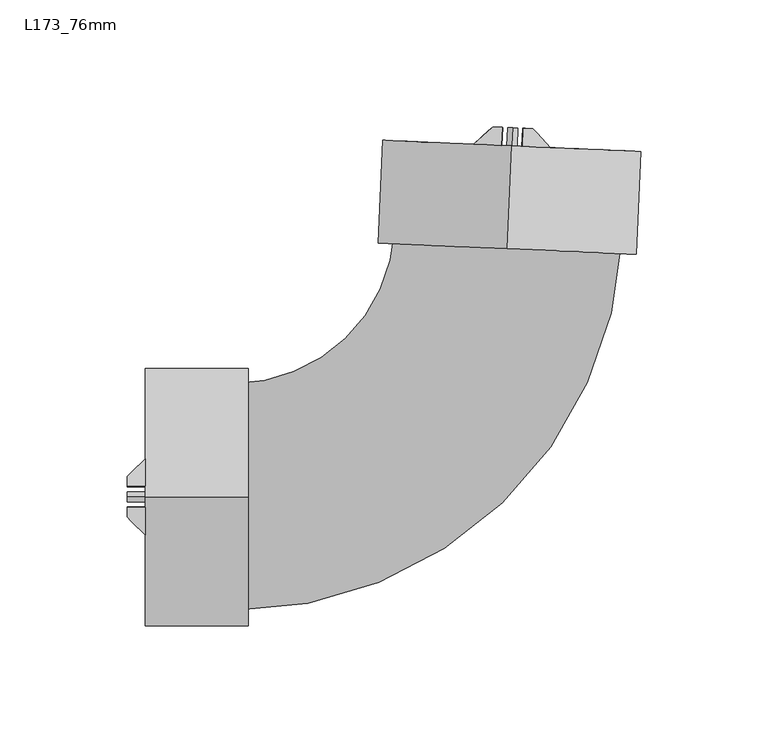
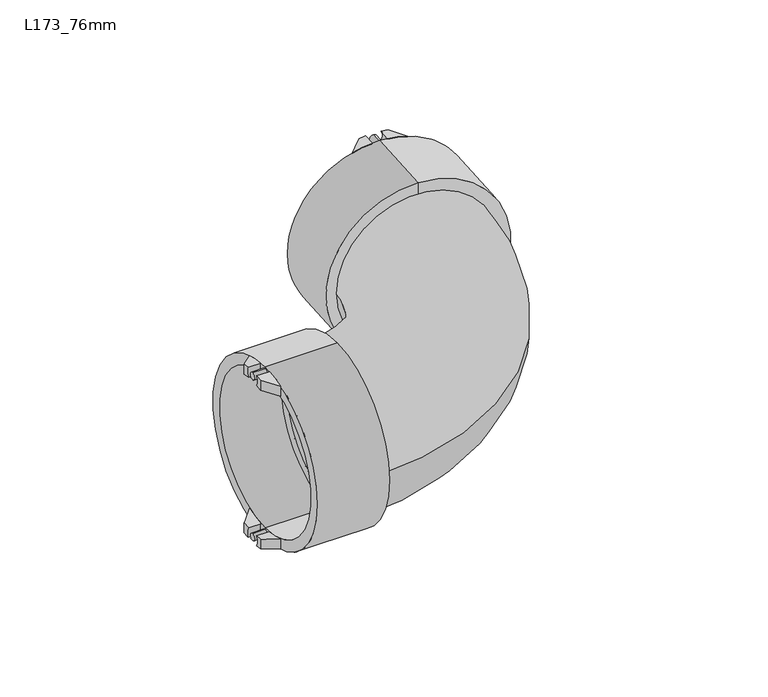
"""IFC4 building model written with IfcOpenShell, lengths in millimetres: pipe fitting geometry, Durapipe_PipeFitting_VulcatheneEnfusion_DoubleSocketLongSweepBend_L17 : L173_76mm."""

from ifc_helpers import new_model, si_unit, point, frame, frame_2d, origin, place, context, project, spatial, polyline, circle_curve, ellipse_curve, trimmed, segment, composite_curve, outline, extrude, source, transform, mapped, element, save
from ifc_brep_helpers import plane_surface, cylinder_surface, revolved_surface, advanced_brep


def l173_76mm_c5a6e707(model_context):
    return source(origin(), model_context, "Body", "SolidModel", [
        advanced_brep(
        [(2.4020182, 145.4254172, -44.6762827), (2.1545434, 145.4362222, -50.4762827), (-1.5905426, 145.5997362, -50.0237833), (-1.5905426, 145.5997362, -44.1415779), (-8.9535206, 138.8144467, -48.3779133), (1.8448458, 138.3429798, -50.4762827), (2.0923205, 138.3321748, -44.6762827), (-8.9535206, 138.8144467, -42.2672746)],
        [
            (0, 1, circle_curve(frame((6.3419003, 145.2533982, -47.75), z_axis=(-0.04361938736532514, -0.9990482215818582, 0.0), x_axis=(0.0, 0.0, 1.0)), 5.0)),
            (1, 2, circle_curve(frame((6.3419003, 145.2533982, 0.0), z_axis=(0.04361938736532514, 0.9990482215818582, 0.0), x_axis=(0.0, 0.0, 1.0)), 50.65)),
            (2, 3),
            (3, 0, circle_curve(frame((6.3419003, 145.2533982, 0.0), z_axis=(-0.04361938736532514, -0.9990482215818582, 0.0), x_axis=(0.0, 0.0, 1.0)), 44.85)),
            (4, 5, circle_curve(frame((6.0322027, 138.1601559, 0.0), z_axis=(-0.04361938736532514, -0.9990482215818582, 0.0), x_axis=(0.0, 0.0, 1.0)), 50.65)),
            (5, 6, circle_curve(frame((6.0322027, 138.1601559, -47.75), z_axis=(0.04361938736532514, 0.9990482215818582, 0.0), x_axis=(0.0, 0.0, 1.0)), 5.0)),
            (6, 7, circle_curve(frame((6.0322027, 138.1601559, 0.0), z_axis=(0.04361938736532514, 0.9990482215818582, 0.0), x_axis=(0.0, 0.0, 1.0)), 44.85)),
            (7, 4),
            (6, 0),
            (3, 7, ellipse_curve(frame((6.6902005, 153.2307841, 0.0), z_axis=(-0.6776702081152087, 0.7353659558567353, 0.0), x_axis=(-0.7353659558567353, -0.6776702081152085, 0.0)), 63.6074133, 44.85)),
            (4, 2, ellipse_curve(frame((6.6902005, 153.2307841, 0.0), z_axis=(0.6776702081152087, -0.7353659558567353, 0.0), x_axis=(0.7353659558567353, 0.6776702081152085, 0.0)), 71.8331212, 50.65)),
            (1, 5),
        ],
        [
            plane_surface(frame((-8.643823, 145.907689, -48.3779133), z_axis=(0.04361938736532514, 0.9990482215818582, 0.0), x_axis=(0.0, 0.0, 1.0))),
            plane_surface(frame((-8.9535206, 138.8144467, -48.3779133), z_axis=(-0.04361938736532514, -0.9990482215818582, 0.0), x_axis=(0.0, 0.0, -1.0))),
            revolved_surface(polyline([(4.722786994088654, 108.16960556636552, 44.85), (8.657614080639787, 198.29196263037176, 44.85)]), (6.0322027, 138.1601559, 0.0), (-0.04361938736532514, -0.9990482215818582, 0.0)),
            cylinder_surface(frame((6.0322027, 138.1601559, 0.0), z_axis=(0.04361938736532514, 0.9990482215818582, 0.0), x_axis=(0.0, 0.0, 1.0)), 50.65),
            revolved_surface(polyline([(6.341900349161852, 145.25339824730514, -42.75), (6.03220269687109, 138.16015582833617, -42.75)]), (6.0322027, 138.1601559, -47.75), (0.04361938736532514, 0.9990482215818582, 0.0)),
            plane_surface(frame((-8.9535206, 138.8144467, 50.65), z_axis=(-0.6776702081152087, 0.7353659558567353, 0.0), x_axis=(0.0, 0.0, -1.0))),
        ],
        [
            (0, [[1, 2, 3, 4]]),
            (1, [[5, 6, 7, 8]]),
            (2, [[-7, 9, -4, 10]]),
            (3, [[-5, 11, -2, 12]]),
            (4, [[-1, -9, -6, -12]]),
            (5, [[-3, -11, -8, -10]]),
        ],
    ),
        advanced_brep(
        [(10.5292572, 145.0705743, -50.4762827), (10.2817825, 145.0813793, -44.6762827), (14.2743432, 144.9070603, -44.1415779), (14.2743432, 144.9070603, -50.0237833), (10.2195596, 137.9773319, -50.4762827), (21.017926, 137.505865, -48.3779133), (21.017926, 137.505865, -42.2672746), (9.9720849, 137.9881369, -44.6762827)],
        [
            (0, 1, circle_curve(frame((6.3419003, 145.2533982, -47.75), z_axis=(-0.04361938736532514, -0.9990482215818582, 0.0), x_axis=(0.0, 0.0, 1.0)), 5.0)),
            (1, 2, circle_curve(frame((6.3419003, 145.2533982, 0.0), z_axis=(-0.04361938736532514, -0.9990482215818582, 0.0), x_axis=(0.0, 0.0, 1.0)), 44.85)),
            (2, 3),
            (3, 0, circle_curve(frame((6.3419003, 145.2533982, 0.0), z_axis=(0.04361938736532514, 0.9990482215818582, 0.0), x_axis=(0.0, 0.0, 1.0)), 50.65)),
            (4, 5, circle_curve(frame((6.0322027, 138.1601559, 0.0), z_axis=(-0.04361938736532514, -0.9990482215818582, 0.0), x_axis=(0.0, 0.0, 1.0)), 50.65)),
            (5, 6),
            (6, 7, circle_curve(frame((6.0322027, 138.1601559, 0.0), z_axis=(0.04361938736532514, 0.9990482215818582, 0.0), x_axis=(0.0, 0.0, 1.0)), 44.85)),
            (7, 4, circle_curve(frame((6.0322027, 138.1601559, -47.75), z_axis=(0.04361938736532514, 0.9990482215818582, 0.0), x_axis=(0.0, 0.0, 1.0)), 5.0)),
            (6, 2, ellipse_curve(frame((6.6902005, 153.2307841, 0.0), z_axis=(0.7391828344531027, 0.6735048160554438, 0.0), x_axis=(0.6735048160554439, -0.7391828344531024, 0.0)), 63.6074133, 44.85)),
            (1, 7),
            (4, 0),
            (3, 5, ellipse_curve(frame((6.6902005, 153.2307841, 0.0), z_axis=(-0.7391828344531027, -0.6735048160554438, 0.0), x_axis=(-0.6735048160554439, 0.7391828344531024, 0.0)), 71.8331212, 50.65)),
        ],
        [
            plane_surface(frame((-8.643823, 145.907689, -48.3779133), z_axis=(0.04361938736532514, 0.9990482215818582, 0.0), x_axis=(0.0, 0.0, 1.0))),
            plane_surface(frame((-8.9535206, 138.8144467, -48.3779133), z_axis=(-0.04361938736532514, -0.9990482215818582, 0.0), x_axis=(0.0, 0.0, -1.0))),
            revolved_surface(polyline([(4.722786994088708, 108.16960556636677, 44.85), (8.657614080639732, 198.2919626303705, 44.85)]), (6.0322027, 138.1601559, 0.0), (-0.04361938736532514, -0.9990482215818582, 0.0)),
            cylinder_surface(frame((6.0322027, 138.1601559, 0.0), z_axis=(0.04361938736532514, 0.9990482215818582, 0.0), x_axis=(0.0, 0.0, 1.0)), 50.65),
            revolved_surface(polyline([(6.341900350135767, 145.25339826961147, -42.75), (6.032202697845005, 138.1601558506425, -42.75)]), (6.0322027, 138.1601559, -47.75), (0.04361938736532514, 0.9990482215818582, 0.0)),
            plane_surface(frame((14.2743432, 144.9070603, 50.65), z_axis=(0.7391828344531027, 0.6735048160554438, 0.0), x_axis=(0.0, 0.0, -1.0))),
        ],
        [
            (0, [[1, 2, 3, 4]]),
            (1, [[5, 6, 7, 8]]),
            (2, [[-7, 9, -2, 10]]),
            (3, [[-5, 11, -4, 12]]),
            (4, [[-1, -11, -8, -10]]),
            (5, [[-3, -9, -6, -12]]),
        ],
    ),
        advanced_brep(
        [(2.1545434, 145.4362222, 50.4762827), (2.4020182, 145.4254172, 44.6762827), (-1.5905426, 145.5997362, 44.1415779), (-1.5905426, 145.5997362, 50.0237833), (1.8448458, 138.3429798, 50.4762827), (-8.9535206, 138.8144467, 48.3779133), (-8.9535206, 138.8144467, 42.2672746), (2.0923205, 138.3321748, 44.6762827)],
        [
            (0, 1, circle_curve(frame((6.3419003, 145.2533982, 47.75), z_axis=(-0.04361938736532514, -0.9990482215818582, 0.0), x_axis=(0.0, 0.0, 1.0)), 5.0)),
            (1, 2, circle_curve(frame((6.3419003, 145.2533982, 0.0), z_axis=(-0.04361938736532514, -0.9990482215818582, 0.0), x_axis=(0.0, 0.0, 1.0)), 44.85)),
            (2, 3),
            (3, 0, circle_curve(frame((6.3419003, 145.2533982, 0.0), z_axis=(0.04361938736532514, 0.9990482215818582, 0.0), x_axis=(0.0, 0.0, 1.0)), 50.65)),
            (4, 5, circle_curve(frame((6.0322027, 138.1601559, 0.0), z_axis=(-0.04361938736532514, -0.9990482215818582, 0.0), x_axis=(0.0, 0.0, 1.0)), 50.65)),
            (5, 6),
            (6, 7, circle_curve(frame((6.0322027, 138.1601559, 0.0), z_axis=(0.04361938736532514, 0.9990482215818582, 0.0), x_axis=(0.0, 0.0, 1.0)), 44.85)),
            (7, 4, circle_curve(frame((6.0322027, 138.1601559, 47.75), z_axis=(0.04361938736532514, 0.9990482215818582, 0.0), x_axis=(0.0, 0.0, 1.0)), 5.0)),
            (6, 2, ellipse_curve(frame((6.6902005, 153.2307841, 0.0), z_axis=(-0.6776702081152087, 0.7353659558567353, 0.0), x_axis=(-0.7353659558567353, -0.6776702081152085, 0.0)), 63.6074133, 44.85)),
            (1, 7),
            (4, 0),
            (3, 5, ellipse_curve(frame((6.6902005, 153.2307841, 0.0), z_axis=(0.6776702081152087, -0.7353659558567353, 0.0), x_axis=(0.7353659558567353, 0.6776702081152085, 0.0)), 71.8331212, 50.65)),
        ],
        [
            plane_surface(frame((-8.643823, 145.907689, -48.3779133), z_axis=(0.04361938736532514, 0.9990482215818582, 0.0), x_axis=(0.0, 0.0, 1.0))),
            plane_surface(frame((-8.9535206, 138.8144467, -48.3779133), z_axis=(-0.04361938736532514, -0.9990482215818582, 0.0), x_axis=(0.0, 0.0, -1.0))),
            revolved_surface(polyline([(4.722786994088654, 108.16960556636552, 44.85), (8.657614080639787, 198.29196263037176, 44.85)]), (6.0322027, 138.1601559, 0.0), (-0.04361938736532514, -0.9990482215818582, 0.0)),
            cylinder_surface(frame((6.0322027, 138.1601559, 0.0), z_axis=(0.04361938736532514, 0.9990482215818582, 0.0), x_axis=(0.0, 0.0, 1.0)), 50.65),
            revolved_surface(polyline([(6.341900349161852, 145.25339824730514, 52.75), (6.03220269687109, 138.16015582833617, 52.75)]), (6.0322027, 138.1601559, 47.75), (0.04361938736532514, 0.9990482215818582, 0.0)),
            plane_surface(frame((-8.9535206, 138.8144467, 50.65), z_axis=(-0.6776702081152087, 0.7353659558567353, 0.0), x_axis=(0.0, 0.0, -1.0))),
        ],
        [
            (0, [[1, 2, 3, 4]]),
            (1, [[5, 6, 7, 8]]),
            (2, [[-7, 9, -2, 10]]),
            (3, [[-5, 11, -4, 12]]),
            (4, [[-1, -11, -8, -10]]),
            (5, [[-3, -9, -6, -12]]),
        ],
    ),
        advanced_brep(
        [(10.2817825, 145.0813793, 44.6762827), (10.5292572, 145.0705743, 50.4762827), (14.2743432, 144.9070603, 50.0237833), (14.2743432, 144.9070603, 44.1415779), (21.017926, 137.505865, 48.3779133), (10.2195596, 137.9773319, 50.4762827), (9.9720849, 137.9881369, 44.6762827), (21.017926, 137.505865, 42.2672746)],
        [
            (0, 1, circle_curve(frame((6.3419003, 145.2533982, 47.75), z_axis=(-0.04361938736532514, -0.9990482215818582, 0.0), x_axis=(0.0, 0.0, 1.0)), 5.0)),
            (1, 2, circle_curve(frame((6.3419003, 145.2533982, 0.0), z_axis=(0.04361938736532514, 0.9990482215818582, 0.0), x_axis=(0.0, 0.0, 1.0)), 50.65)),
            (2, 3),
            (3, 0, circle_curve(frame((6.3419003, 145.2533982, 0.0), z_axis=(-0.04361938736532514, -0.9990482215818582, 0.0), x_axis=(0.0, 0.0, 1.0)), 44.85)),
            (4, 5, circle_curve(frame((6.0322027, 138.1601559, 0.0), z_axis=(-0.04361938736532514, -0.9990482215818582, 0.0), x_axis=(0.0, 0.0, 1.0)), 50.65)),
            (5, 6, circle_curve(frame((6.0322027, 138.1601559, 47.75), z_axis=(0.04361938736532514, 0.9990482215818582, 0.0), x_axis=(0.0, 0.0, 1.0)), 5.0)),
            (6, 7, circle_curve(frame((6.0322027, 138.1601559, 0.0), z_axis=(0.04361938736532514, 0.9990482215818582, 0.0), x_axis=(0.0, 0.0, 1.0)), 44.85)),
            (7, 4),
            (6, 0),
            (3, 7, ellipse_curve(frame((6.6902005, 153.2307841, 0.0), z_axis=(0.7391828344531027, 0.6735048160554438, 0.0), x_axis=(0.6735048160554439, -0.7391828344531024, 0.0)), 63.6074133, 44.85)),
            (4, 2, ellipse_curve(frame((6.6902005, 153.2307841, 0.0), z_axis=(-0.7391828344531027, -0.6735048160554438, 0.0), x_axis=(-0.6735048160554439, 0.7391828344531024, 0.0)), 71.8331212, 50.65)),
            (1, 5),
        ],
        [
            plane_surface(frame((-8.643823, 145.907689, -48.3779133), z_axis=(0.04361938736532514, 0.9990482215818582, 0.0), x_axis=(0.0, 0.0, 1.0))),
            plane_surface(frame((-8.9535206, 138.8144467, -48.3779133), z_axis=(-0.04361938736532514, -0.9990482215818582, 0.0), x_axis=(0.0, 0.0, -1.0))),
            revolved_surface(polyline([(4.722786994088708, 108.16960556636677, 44.85), (8.657614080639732, 198.2919626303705, 44.85)]), (6.0322027, 138.1601559, 0.0), (-0.04361938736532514, -0.9990482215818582, 0.0)),
            cylinder_surface(frame((6.0322027, 138.1601559, 0.0), z_axis=(0.04361938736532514, 0.9990482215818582, 0.0), x_axis=(0.0, 0.0, 1.0)), 50.65),
            revolved_surface(polyline([(6.341900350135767, 145.25339826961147, 52.75), (6.032202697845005, 138.1601558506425, 52.75)]), (6.0322027, 138.1601559, 47.75), (0.04361938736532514, 0.9990482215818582, 0.0)),
            plane_surface(frame((14.2743432, 144.9070603, 50.65), z_axis=(0.7391828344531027, 0.6735048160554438, 0.0), x_axis=(0.0, 0.0, -1.0))),
        ],
        [
            (0, [[1, 2, 3, 4]]),
            (1, [[5, 6, 7, 8]]),
            (2, [[-7, 9, -4, 10]]),
            (3, [[-5, 11, -2, 12]]),
            (4, [[-1, -9, -6, -12]]),
            (5, [[-3, -11, -8, -10]]),
        ],
    ),
        extrude(outline(composite_curve([segment(trimmed(circle_curve(frame_2d((0.0, -2.0)), 2.0), [point((0.0, -4.0))], [point((0.0, 0.0))], False, "CARTESIAN"), True, "CONTINUOUS"), segment(trimmed(circle_curve(frame_2d((0.0, -2.0)), 2.0), [point((0.0, 0.0))], [point((0.0, -4.0))], False, "CARTESIAN"), True, "CONTINUOUS")], self_intersect=False)), frame((6.0322027, 138.1601559, -45.75), z_axis=(0.04361938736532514, 0.9990482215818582, 0.0), x_axis=(-0.9990482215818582, 0.04361938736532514, 0.0)), (0.0, 0.0, 1.0), 7.1),
        extrude(outline(composite_curve([segment(trimmed(circle_curve(frame_2d((0.0, 93.5)), 2.0), [point((0.0, 91.5))], [point((0.0, 95.5))], False, "CARTESIAN"), True, "CONTINUOUS"), segment(trimmed(circle_curve(frame_2d((0.0, 93.5)), 2.0), [point((0.0, 95.5))], [point((0.0, 91.5))], False, "CARTESIAN"), True, "CONTINUOUS")], self_intersect=False)), frame((6.0322027, 138.1601559, -45.75), z_axis=(0.04361938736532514, 0.9990482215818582, 0.0), x_axis=(-0.9990482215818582, 0.04361938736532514, 0.0)), (0.0, 0.0, 1.0), 7.1),
        advanced_brep(
        [(4.5055241, 103.1934681, -39.3), (4.5055241, 103.1934681, 39.3), (4.5055241, 103.1934681, 44.7), (4.5055241, 103.1934681, -44.7), (4.2656175, 97.6987029, -39.3), (4.2656175, 97.6987029, 39.3), (4.2656175, 97.6987029, -50.8), (4.2656175, 97.6987029, 50.8), (6.0322027, 138.1601559, -50.8), (6.0322027, 138.1601559, 50.8), (6.0322027, 138.1601559, -44.7), (6.0322027, 138.1601559, 44.7)],
        [
            (0, 1, circle_curve(frame((4.5055241, 103.1934681, 0.0), z_axis=(-0.04361938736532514, -0.9990482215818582, 0.0), x_axis=(0.0, 0.0, 1.0)), 39.3)),
            (1, 2),
            (2, 3, circle_curve(frame((4.5055241, 103.1934681, 0.0), z_axis=(0.04361938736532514, 0.9990482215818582, 0.0), x_axis=(0.0, 0.0, 1.0)), 44.7)),
            (3, 0),
            (1, 0, circle_curve(frame((4.5055241, 103.1934681, 0.0), z_axis=(-0.04361938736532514, -0.9990482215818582, 0.0), x_axis=(0.0, 0.0, 1.0)), 39.3)),
            (3, 2, circle_curve(frame((4.5055241, 103.1934681, 0.0), z_axis=(0.04361938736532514, 0.9990482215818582, 0.0), x_axis=(0.0, 0.0, 1.0)), 44.7)),
            (4, 5, circle_curve(frame((4.2656175, 97.6987029, 0.0), z_axis=(-0.04361938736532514, -0.9990482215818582, 0.0), x_axis=(0.0, 0.0, 1.0)), 39.3)),
            (5, 1),
            (0, 4),
            (5, 4, circle_curve(frame((4.2656175, 97.6987029, 0.0), z_axis=(-0.04361938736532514, -0.9990482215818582, 0.0), x_axis=(0.0, 0.0, 1.0)), 39.3)),
            (6, 7, circle_curve(frame((4.2656175, 97.6987029, 0.0), z_axis=(-0.04361938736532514, -0.9990482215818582, 0.0), x_axis=(0.0, 0.0, 1.0)), 50.8)),
            (7, 5),
            (4, 6),
            (7, 6, circle_curve(frame((4.2656175, 97.6987029, 0.0), z_axis=(-0.04361938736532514, -0.9990482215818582, 0.0), x_axis=(0.0, 0.0, 1.0)), 50.8)),
            (8, 9, circle_curve(frame((6.0322027, 138.1601559, 0.0), z_axis=(-0.04361938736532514, -0.9990482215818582, 0.0), x_axis=(0.0, 0.0, 1.0)), 50.8)),
            (9, 7),
            (6, 8),
            (9, 8, circle_curve(frame((6.0322027, 138.1601559, 0.0), z_axis=(-0.04361938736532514, -0.9990482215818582, 0.0), x_axis=(0.0, 0.0, 1.0)), 50.8)),
            (10, 11, circle_curve(frame((6.0322027, 138.1601559, 0.0), z_axis=(-0.04361938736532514, -0.9990482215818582, 0.0), x_axis=(0.0, 0.0, 1.0)), 44.7)),
            (11, 9),
            (8, 10),
            (11, 10, circle_curve(frame((6.0322027, 138.1601559, 0.0), z_axis=(-0.04361938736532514, -0.9990482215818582, 0.0), x_axis=(0.0, 0.0, 1.0)), 44.7)),
            (2, 11),
            (10, 3),
        ],
        [
            plane_surface(frame((4.5055241, 103.1934681, 0.0), z_axis=(0.04361938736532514, 0.9990482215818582, 0.0), x_axis=(0.0, 0.0, 1.0))),
            revolved_surface(polyline([(4.505524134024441, 103.19346809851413, 39.3), (4.265617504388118, 97.69870289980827, 39.3)]), (115.6905846, 2649.7500255, 0.0), (0.04361938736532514, 0.9990482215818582, 0.0)),
            plane_surface(frame((4.2656175, 97.6987029, 0.0), z_axis=(-0.04361938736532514, -0.9990482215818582, 0.0), x_axis=(0.0, 0.0, 1.0))),
            cylinder_surface(frame((115.6905846, 2649.7500255, 0.0), z_axis=(0.04361938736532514, 0.9990482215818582, 0.0), x_axis=(0.0, 0.0, 1.0)), 50.8),
            plane_surface(frame((6.0322027, 138.1601559, 0.0), z_axis=(0.04361938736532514, 0.9990482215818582, 0.0), x_axis=(0.0, 0.0, 1.0))),
            revolved_surface(polyline([(6.032202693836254, 138.16015590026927, 44.7), (4.505524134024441, 103.19346809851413, 44.7)]), (115.6905846, 2649.7500255, 0.0), (0.04361938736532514, 0.9990482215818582, 0.0)),
        ],
        [
            (0, [[1, 2, 3, 4]]),
            (0, [[5, -4, 6, -2]]),
            (1, [[7, 8, -1, 9]]),
            (1, [[10, -9, -5, -8]]),
            (2, [[11, 12, -7, 13]]),
            (2, [[14, -13, -10, -12]]),
            (3, [[15, 16, -11, 17]]),
            (3, [[18, -17, -14, -16]]),
            (4, [[19, 20, -15, 21]]),
            (4, [[22, -21, -18, -20]]),
            (5, [[-3, 23, -19, 24]]),
            (5, [[-6, -24, -22, -23]]),
        ],
    ),
        advanced_brep(
        [(-145.391779, -3.9436356, -44.6762827), (-145.391779, -4.1913461, -50.4762827), (-145.391779, -7.94, -50.0237833), (-145.391779, -7.94, -44.1415779), (-138.291779, -15.0, -48.3779133), (-138.291779, -4.1913461, -50.4762827), (-138.291779, -3.9436356, -44.6762827), (-138.291779, -15.0, -42.2672746)],
        [
            (0, 1, circle_curve(frame((-145.391779, 0.0, -47.75), z_axis=(1.0, 0.0, 0.0), x_axis=(0.0, 0.0, 1.0)), 5.0)),
            (1, 2, circle_curve(frame((-145.391779, 0.0, 0.0), z_axis=(-1.0, 0.0, 0.0), x_axis=(0.0, 0.0, 1.0)), 50.65)),
            (2, 3),
            (3, 0, circle_curve(frame((-145.391779, 0.0, 0.0), z_axis=(1.0, 0.0, 0.0), x_axis=(0.0, 0.0, 1.0)), 44.85)),
            (4, 5, circle_curve(frame((-138.291779, 0.0, 0.0), z_axis=(1.0, 0.0, 0.0), x_axis=(0.0, 0.0, 1.0)), 50.65)),
            (5, 6, circle_curve(frame((-138.291779, 0.0, -47.75), z_axis=(-1.0, 0.0, 0.0), x_axis=(0.0, 0.0, 1.0)), 5.0)),
            (6, 7, circle_curve(frame((-138.291779, 0.0, 0.0), z_axis=(-1.0, 0.0, 0.0), x_axis=(0.0, 0.0, 1.0)), 44.85)),
            (7, 4),
            (6, 0),
            (3, 7, ellipse_curve(frame((-153.3767648, 0.0, 0.0), z_axis=(-0.705106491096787, -0.7091014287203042, 0.0), x_axis=(0.7091014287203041, -0.7051064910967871, 0.0)), 63.6074133, 44.85)),
            (4, 2, ellipse_curve(frame((-153.3767648, 0.0, 0.0), z_axis=(0.705106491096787, 0.7091014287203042, 0.0), x_axis=(-0.7091014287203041, 0.7051064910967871, 0.0)), 71.8331212, 50.65)),
            (1, 5),
        ],
        [
            plane_surface(frame((-145.391779, -15.0, -48.3779133), z_axis=(-1.0, 0.0, 0.0), x_axis=(0.0, 0.0, 1.0))),
            plane_surface(frame((-138.291779, -15.0, -48.3779133), z_axis=(1.0, 0.0, 0.0), x_axis=(0.0, 0.0, -1.0))),
            revolved_surface(polyline([(-108.2726571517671, 0.0, 44.85), (-198.48087244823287, 0.0, 44.85)]), (-138.291779, 0.0, 0.0), (1.0, 0.0, 0.0)),
            cylinder_surface(frame((-138.291779, 0.0, 0.0), z_axis=(-1.0, 0.0, 0.0), x_axis=(0.0, 0.0, 1.0)), 50.65),
            revolved_surface(polyline([(-145.391779, 0.0, -42.75), (-138.291779, 0.0, -42.75)]), (-138.291779, 0.0, -47.75), (-1.0, 0.0, 0.0)),
            plane_surface(frame((-138.291779, -15.0, 50.65), z_axis=(-0.705106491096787, -0.7091014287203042, 0.0), x_axis=(0.0, 0.0, -1.0))),
        ],
        [
            (0, [[1, 2, 3, 4]]),
            (1, [[5, 6, 7, 8]]),
            (2, [[-7, 9, -4, 10]]),
            (3, [[-5, 11, -2, 12]]),
            (4, [[-1, -9, -6, -12]]),
            (5, [[-3, -11, -8, -10]]),
        ],
    ),
        advanced_brep(
        [(-145.391779, 4.1913461, -50.4762827), (-145.391779, 3.9436356, -44.6762827), (-145.391779, 7.94, -44.1415779), (-145.391779, 7.94, -50.0237833), (-138.291779, 4.1913461, -50.4762827), (-138.291779, 15.0, -48.3779133), (-138.291779, 15.0, -42.2672746), (-138.291779, 3.9436356, -44.6762827)],
        [
            (0, 1, circle_curve(frame((-145.391779, 0.0, -47.75), z_axis=(1.0, 0.0, 0.0), x_axis=(0.0, 0.0, 1.0)), 5.0)),
            (1, 2, circle_curve(frame((-145.391779, 0.0, 0.0), z_axis=(1.0, 0.0, 0.0), x_axis=(0.0, 0.0, 1.0)), 44.85)),
            (2, 3),
            (3, 0, circle_curve(frame((-145.391779, 0.0, 0.0), z_axis=(-1.0, 0.0, 0.0), x_axis=(0.0, 0.0, 1.0)), 50.65)),
            (4, 5, circle_curve(frame((-138.291779, 0.0, 0.0), z_axis=(1.0, 0.0, 0.0), x_axis=(0.0, 0.0, 1.0)), 50.65)),
            (5, 6),
            (6, 7, circle_curve(frame((-138.291779, 0.0, 0.0), z_axis=(-1.0, 0.0, 0.0), x_axis=(0.0, 0.0, 1.0)), 44.85)),
            (7, 4, circle_curve(frame((-138.291779, 0.0, -47.75), z_axis=(-1.0, 0.0, 0.0), x_axis=(0.0, 0.0, 1.0)), 5.0)),
            (6, 2, ellipse_curve(frame((-153.3767648, 0.0, 0.0), z_axis=(-0.7051064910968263, 0.7091014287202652, 0.0), x_axis=(0.7091014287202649, 0.7051064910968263, 0.0)), 63.6074133, 44.85)),
            (1, 7),
            (4, 0),
            (3, 5, ellipse_curve(frame((-153.3767648, 0.0, 0.0), z_axis=(0.7051064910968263, -0.7091014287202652, 0.0), x_axis=(-0.7091014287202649, -0.7051064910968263, 0.0)), 71.8331212, 50.65)),
        ],
        [
            plane_surface(frame((-145.391779, -15.0, -48.3779133), z_axis=(-1.0, 0.0, 0.0), x_axis=(0.0, 0.0, 1.0))),
            plane_surface(frame((-138.291779, -15.0, -48.3779133), z_axis=(1.0, 0.0, 0.0), x_axis=(0.0, 0.0, -1.0))),
            revolved_surface(polyline([(-108.27265715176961, 0.0, 44.85), (-198.48087244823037, 0.0, 44.85)]), (-138.291779, 0.0, 0.0), (1.0, 0.0, 0.0)),
            cylinder_surface(frame((-138.291779, 0.0, 0.0), z_axis=(-1.0, 0.0, 0.0), x_axis=(0.0, 0.0, 1.0)), 50.65),
            revolved_surface(polyline([(-145.391779, 0.0, -42.75), (-138.291779, 0.0, -42.75)]), (-138.291779, 0.0, -47.75), (-1.0, 0.0, 0.0)),
            plane_surface(frame((-145.391779, 7.94, 50.65), z_axis=(-0.7051064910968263, 0.7091014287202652, 0.0), x_axis=(0.0, 0.0, -1.0))),
        ],
        [
            (0, [[1, 2, 3, 4]]),
            (1, [[5, 6, 7, 8]]),
            (2, [[-7, 9, -2, 10]]),
            (3, [[-5, 11, -4, 12]]),
            (4, [[-1, -11, -8, -10]]),
            (5, [[-3, -9, -6, -12]]),
        ],
    ),
        advanced_brep(
        [(-145.391779, -4.1913461, 50.4762827), (-145.391779, -3.9436356, 44.6762827), (-145.391779, -7.94, 44.1415779), (-145.391779, -7.94, 50.0237833), (-138.291779, -4.1913461, 50.4762827), (-138.291779, -15.0, 48.3779133), (-138.291779, -15.0, 42.2672746), (-138.291779, -3.9436356, 44.6762827)],
        [
            (0, 1, circle_curve(frame((-145.391779, 0.0, 47.75), z_axis=(1.0, 0.0, 0.0), x_axis=(0.0, 0.0, 1.0)), 5.0)),
            (1, 2, circle_curve(frame((-145.391779, 0.0, 0.0), z_axis=(1.0, 0.0, 0.0), x_axis=(0.0, 0.0, 1.0)), 44.85)),
            (2, 3),
            (3, 0, circle_curve(frame((-145.391779, 0.0, 0.0), z_axis=(-1.0, 0.0, 0.0), x_axis=(0.0, 0.0, 1.0)), 50.65)),
            (4, 5, circle_curve(frame((-138.291779, 0.0, 0.0), z_axis=(1.0, 0.0, 0.0), x_axis=(0.0, 0.0, 1.0)), 50.65)),
            (5, 6),
            (6, 7, circle_curve(frame((-138.291779, 0.0, 0.0), z_axis=(-1.0, 0.0, 0.0), x_axis=(0.0, 0.0, 1.0)), 44.85)),
            (7, 4, circle_curve(frame((-138.291779, 0.0, 47.75), z_axis=(-1.0, 0.0, 0.0), x_axis=(0.0, 0.0, 1.0)), 5.0)),
            (6, 2, ellipse_curve(frame((-153.3767648, 0.0, 0.0), z_axis=(-0.705106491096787, -0.7091014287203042, 0.0), x_axis=(0.7091014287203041, -0.7051064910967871, 0.0)), 63.6074133, 44.85)),
            (1, 7),
            (4, 0),
            (3, 5, ellipse_curve(frame((-153.3767648, 0.0, 0.0), z_axis=(0.705106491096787, 0.7091014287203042, 0.0), x_axis=(-0.7091014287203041, 0.7051064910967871, 0.0)), 71.8331212, 50.65)),
        ],
        [
            plane_surface(frame((-145.391779, -15.0, -48.3779133), z_axis=(-1.0, 0.0, 0.0), x_axis=(0.0, 0.0, 1.0))),
            plane_surface(frame((-138.291779, -15.0, -48.3779133), z_axis=(1.0, 0.0, 0.0), x_axis=(0.0, 0.0, -1.0))),
            revolved_surface(polyline([(-108.2726571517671, 0.0, 44.85), (-198.48087244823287, 0.0, 44.85)]), (-138.291779, 0.0, 0.0), (1.0, 0.0, 0.0)),
            cylinder_surface(frame((-138.291779, 0.0, 0.0), z_axis=(-1.0, 0.0, 0.0), x_axis=(0.0, 0.0, 1.0)), 50.65),
            revolved_surface(polyline([(-145.391779, 0.0, 52.75), (-138.291779, 0.0, 52.75)]), (-138.291779, 0.0, 47.75), (-1.0, 0.0, 0.0)),
            plane_surface(frame((-138.291779, -15.0, 50.65), z_axis=(-0.705106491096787, -0.7091014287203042, 0.0), x_axis=(0.0, 0.0, -1.0))),
        ],
        [
            (0, [[1, 2, 3, 4]]),
            (1, [[5, 6, 7, 8]]),
            (2, [[-7, 9, -2, 10]]),
            (3, [[-5, 11, -4, 12]]),
            (4, [[-1, -11, -8, -10]]),
            (5, [[-3, -9, -6, -12]]),
        ],
    ),
        advanced_brep(
        [(-145.391779, 3.9436356, 44.6762827), (-145.391779, 4.1913461, 50.4762827), (-145.391779, 7.94, 50.0237833), (-145.391779, 7.94, 44.1415779), (-138.291779, 15.0, 48.3779133), (-138.291779, 4.1913461, 50.4762827), (-138.291779, 3.9436356, 44.6762827), (-138.291779, 15.0, 42.2672746)],
        [
            (0, 1, circle_curve(frame((-145.391779, 0.0, 47.75), z_axis=(1.0, 0.0, 0.0), x_axis=(0.0, 0.0, 1.0)), 5.0)),
            (1, 2, circle_curve(frame((-145.391779, 0.0, 0.0), z_axis=(-1.0, 0.0, 0.0), x_axis=(0.0, 0.0, 1.0)), 50.65)),
            (2, 3),
            (3, 0, circle_curve(frame((-145.391779, 0.0, 0.0), z_axis=(1.0, 0.0, 0.0), x_axis=(0.0, 0.0, 1.0)), 44.85)),
            (4, 5, circle_curve(frame((-138.291779, 0.0, 0.0), z_axis=(1.0, 0.0, 0.0), x_axis=(0.0, 0.0, 1.0)), 50.65)),
            (5, 6, circle_curve(frame((-138.291779, 0.0, 47.75), z_axis=(-1.0, 0.0, 0.0), x_axis=(0.0, 0.0, 1.0)), 5.0)),
            (6, 7, circle_curve(frame((-138.291779, 0.0, 0.0), z_axis=(-1.0, 0.0, 0.0), x_axis=(0.0, 0.0, 1.0)), 44.85)),
            (7, 4),
            (6, 0),
            (3, 7, ellipse_curve(frame((-153.3767648, 0.0, 0.0), z_axis=(-0.7051064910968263, 0.7091014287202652, 0.0), x_axis=(0.7091014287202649, 0.7051064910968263, 0.0)), 63.6074133, 44.85)),
            (4, 2, ellipse_curve(frame((-153.3767648, 0.0, 0.0), z_axis=(0.7051064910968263, -0.7091014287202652, 0.0), x_axis=(-0.7091014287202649, -0.7051064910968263, 0.0)), 71.8331212, 50.65)),
            (1, 5),
        ],
        [
            plane_surface(frame((-145.391779, -15.0, -48.3779133), z_axis=(-1.0, 0.0, 0.0), x_axis=(0.0, 0.0, 1.0))),
            plane_surface(frame((-138.291779, -15.0, -48.3779133), z_axis=(1.0, 0.0, 0.0), x_axis=(0.0, 0.0, -1.0))),
            revolved_surface(polyline([(-108.27265715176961, 0.0, 44.85), (-198.48087244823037, 0.0, 44.85)]), (-138.291779, 0.0, 0.0), (1.0, 0.0, 0.0)),
            cylinder_surface(frame((-138.291779, 0.0, 0.0), z_axis=(-1.0, 0.0, 0.0), x_axis=(0.0, 0.0, 1.0)), 50.65),
            revolved_surface(polyline([(-145.391779, 0.0, 52.75), (-138.291779, 0.0, 52.75)]), (-138.291779, 0.0, 47.75), (-1.0, 0.0, 0.0)),
            plane_surface(frame((-145.391779, 7.94, 50.65), z_axis=(-0.7051064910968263, 0.7091014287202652, 0.0), x_axis=(0.0, 0.0, -1.0))),
        ],
        [
            (0, [[1, 2, 3, 4]]),
            (1, [[5, 6, 7, 8]]),
            (2, [[-7, 9, -4, 10]]),
            (3, [[-5, 11, -2, 12]]),
            (4, [[-1, -9, -6, -12]]),
            (5, [[-3, -11, -8, -10]]),
        ],
    ),
        extrude(outline(composite_curve([segment(trimmed(circle_curve(frame_2d((0.0, -47.75)), 2.0), [point((0.0, -49.75))], [point((0.0, -45.75))], False, "CARTESIAN"), True, "CONTINUOUS"), segment(trimmed(circle_curve(frame_2d((0.0, -47.75)), 2.0), [point((0.0, -45.75))], [point((0.0, -49.75))], False, "CARTESIAN"), True, "CONTINUOUS")], self_intersect=False)), frame((-145.391779, 0.0, 0.0), z_axis=(1.0, 0.0, 0.0), x_axis=(0.0, 1.0, 0.0)), (0.0, 0.0, 1.0), 7.1),
        extrude(outline(composite_curve([segment(trimmed(circle_curve(frame_2d((0.0, 47.75)), 2.0), [point((0.0, 45.75))], [point((0.0, 49.75))], False, "CARTESIAN"), True, "CONTINUOUS"), segment(trimmed(circle_curve(frame_2d((0.0, 47.75)), 2.0), [point((0.0, 49.75))], [point((0.0, 45.75))], False, "CARTESIAN"), True, "CONTINUOUS")], self_intersect=False)), frame((-145.391779, 0.0, 0.0), z_axis=(1.0, 0.0, 0.0), x_axis=(0.0, 1.0, 0.0)), (0.0, 0.0, 1.0), 7.1),
        advanced_brep(
        [(-103.291779, 0.0, -39.3), (-103.291779, 0.0, 39.3), (-103.291779, 0.0, 44.7), (-103.291779, 0.0, -44.7), (-97.791779, 0.0, -39.3), (-97.791779, 0.0, 39.3), (-97.791779, 0.0, -50.8), (-97.791779, 0.0, 50.8), (-138.291779, 0.0, -50.8), (-138.291779, 0.0, 50.8), (-138.291779, 0.0, -44.7), (-138.291779, 0.0, 44.7)],
        [
            (0, 1, circle_curve(frame((-103.291779, 0.0, 0.0), z_axis=(1.0, 0.0, 0.0), x_axis=(0.0, 0.0, 1.0)), 39.3)),
            (1, 2),
            (2, 3, circle_curve(frame((-103.291779, 0.0, 0.0), z_axis=(-1.0, 0.0, 0.0), x_axis=(0.0, 0.0, 1.0)), 44.7)),
            (3, 0),
            (1, 0, circle_curve(frame((-103.291779, 0.0, 0.0), z_axis=(1.0, 0.0, 0.0), x_axis=(0.0, 0.0, 1.0)), 39.3)),
            (3, 2, circle_curve(frame((-103.291779, 0.0, 0.0), z_axis=(-1.0, 0.0, 0.0), x_axis=(0.0, 0.0, 1.0)), 44.7)),
            (4, 5, circle_curve(frame((-97.791779, 0.0, 0.0), z_axis=(1.0, 0.0, 0.0), x_axis=(0.0, 0.0, 1.0)), 39.3)),
            (5, 1),
            (0, 4),
            (5, 4, circle_curve(frame((-97.791779, 0.0, 0.0), z_axis=(1.0, 0.0, 0.0), x_axis=(0.0, 0.0, 1.0)), 39.3)),
            (6, 7, circle_curve(frame((-97.791779, 0.0, 0.0), z_axis=(1.0, 0.0, 0.0), x_axis=(0.0, 0.0, 1.0)), 50.8)),
            (7, 5),
            (4, 6),
            (7, 6, circle_curve(frame((-97.791779, 0.0, 0.0), z_axis=(1.0, 0.0, 0.0), x_axis=(0.0, 0.0, 1.0)), 50.8)),
            (8, 9, circle_curve(frame((-138.291779, 0.0, 0.0), z_axis=(1.0, 0.0, 0.0), x_axis=(0.0, 0.0, 1.0)), 50.8)),
            (9, 7),
            (6, 8),
            (9, 8, circle_curve(frame((-138.291779, 0.0, 0.0), z_axis=(1.0, 0.0, 0.0), x_axis=(0.0, 0.0, 1.0)), 50.8)),
            (10, 11, circle_curve(frame((-138.291779, 0.0, 0.0), z_axis=(1.0, 0.0, 0.0), x_axis=(0.0, 0.0, 1.0)), 44.7)),
            (11, 9),
            (8, 10),
            (11, 10, circle_curve(frame((-138.291779, 0.0, 0.0), z_axis=(1.0, 0.0, 0.0), x_axis=(0.0, 0.0, 1.0)), 44.7)),
            (2, 11),
            (10, 3),
        ],
        [
            plane_surface(frame((-103.291779, 0.0, 0.0), z_axis=(-1.0, 0.0, 0.0), x_axis=(0.0, 0.0, 1.0))),
            revolved_surface(polyline([(-103.29177900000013, 0.0, 39.3), (-97.79177900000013, 0.0, 39.3)]), (-2652.2744031, 0.0, 0.0), (-1.0, 0.0, 0.0)),
            plane_surface(frame((-97.791779, 0.0, 0.0), z_axis=(1.0, 0.0, 0.0), x_axis=(0.0, 0.0, 1.0))),
            cylinder_surface(frame((-2652.2744031, 0.0, 0.0), z_axis=(-1.0, 0.0, 0.0), x_axis=(0.0, 0.0, 1.0)), 50.8),
            plane_surface(frame((-138.291779, 0.0, 0.0), z_axis=(-1.0, 0.0, 0.0), x_axis=(0.0, 0.0, 1.0))),
            revolved_surface(polyline([(-138.29177900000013, 0.0, 44.7), (-103.29177900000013, 0.0, 44.7)]), (-2652.2744031, 0.0, 0.0), (-1.0, 0.0, 0.0)),
        ],
        [
            (0, [[1, 2, 3, 4]]),
            (0, [[5, -4, 6, -2]]),
            (1, [[7, 8, -1, 9]]),
            (1, [[10, -9, -5, -8]]),
            (2, [[11, 12, -7, 13]]),
            (2, [[14, -13, -10, -12]]),
            (3, [[15, 16, -11, 17]]),
            (3, [[18, -17, -14, -16]]),
            (4, [[19, 20, -15, 21]]),
            (4, [[22, -21, -18, -20]]),
            (5, [[-3, 23, -19, 24]]),
            (5, [[-6, -24, -22, -23]]),
        ],
    ),
        advanced_brep(
        [(-103.291779, -44.7, 0.0), (-103.291779, 44.7, 0.0), (-103.291779, -39.3, 0.0), (-103.291779, 39.3, 0.0), (49.1629796, 101.2436815, 0.0), (-40.1519314, 105.1432547, 0.0), (43.7681192, 101.4792262, 0.0), (-34.757071, 104.90771, 0.0)],
        [
            (0, 1, circle_curve(frame((-103.291779, 0.0, 0.0), z_axis=(-1.0, 0.0, 0.0), x_axis=(0.0, 1.0, 0.0)), 44.7)),
            (1, 0, circle_curve(frame((-103.291779, 0.0, 0.0), z_axis=(-1.0, 0.0, 0.0), x_axis=(0.0, 1.0, 0.0)), 44.7)),
            (2, 3, circle_curve(frame((-103.291779, 0.0, 0.0), z_axis=(1.0, 0.0, 0.0), x_axis=(0.0, 1.0, 0.0)), 39.3)),
            (3, 2, circle_curve(frame((-103.291779, 0.0, 0.0), z_axis=(1.0, 0.0, 0.0), x_axis=(0.0, 1.0, 0.0)), 39.3)),
            (4, 5, circle_curve(frame((4.5055241, 103.1934681, 0.0), z_axis=(0.04361938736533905, 0.9990482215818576, 0.0), x_axis=(-0.9990482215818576, 0.04361938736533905, 0.0)), 44.7)),
            (5, 4, circle_curve(frame((4.5055241, 103.1934681, 0.0), z_axis=(0.04361938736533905, 0.9990482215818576, 0.0), x_axis=(-0.9990482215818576, 0.04361938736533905, 0.0)), 44.7)),
            (6, 7, circle_curve(frame((4.5055241, 103.1934681, 0.0), z_axis=(-0.04361938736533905, -0.9990482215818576, 0.0), x_axis=(-0.9990482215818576, 0.04361938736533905, 0.0)), 39.3)),
            (7, 6, circle_curve(frame((4.5055241, 103.1934681, 0.0), z_axis=(-0.04361938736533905, -0.9990482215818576, 0.0), x_axis=(-0.9990482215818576, 0.04361938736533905, 0.0)), 39.3)),
            (5, 1, circle_curve(frame((-103.291779, 107.9, 0.0), z_axis=(0.0, 0.0, -1.0), x_axis=(0.0, -1.0, 0.0)), 63.2)),
            (0, 4, circle_curve(frame((-103.291779, 107.9, 0.0), z_axis=(0.0, 0.0, 1.0), x_axis=(0.0, -1.0, 0.0)), 152.6)),
            (7, 3, circle_curve(frame((-103.291779, 107.9, 0.0), z_axis=(0.0, 0.0, -1.0), x_axis=(0.0, -1.0, 0.0)), 68.6)),
            (2, 6, circle_curve(frame((-103.291779, 107.9, 0.0), z_axis=(0.0, 0.0, 1.0), x_axis=(0.0, -1.0, 0.0)), 147.2)),
        ],
        [
            plane_surface(frame((-103.291779, 0.0, 0.0), z_axis=(-1.0, 0.0, 0.0), x_axis=(0.0, 0.0, 1.0))),
            plane_surface(frame((4.5055241, 103.1934681, 0.0), z_axis=(0.043619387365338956, 0.9990482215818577, 0.0), x_axis=(0.0, 0.0, 1.0))),
            revolved_surface(trimmed(ellipse_curve(frame((-103.291779, 0.0, 0.0), z_axis=(-1.0, 0.0, 0.0), x_axis=(0.0, 1.0, 0.0)), 44.7, 44.7), [point((-103.291779, -44.7, 0.0))], [point((-103.291779, 44.7, 0.0))], True, "CARTESIAN"), (-103.291779, 107.9, 0.0), (0.0, 0.0, 1.0)),
            revolved_surface(trimmed(ellipse_curve(frame((-103.291779, 0.0, 0.0), z_axis=(-1.0, 0.0, 0.0), x_axis=(0.0, 1.0, 0.0)), 44.7, 44.7), [point((-103.291779, 44.7, 0.0))], [point((-103.291779, -44.7, 0.0))], True, "CARTESIAN"), (-103.291779, 107.9, 0.0), (0.0, 0.0, 1.0)),
            revolved_surface(trimmed(ellipse_curve(frame((-103.291779, 0.0, 0.0), z_axis=(1.0, 0.0, 0.0), x_axis=(0.0, 1.0, 0.0)), 39.3, 39.3), [point((-103.291779, -39.3, 0.0))], [point((-103.291779, 39.3, 0.0))], True, "CARTESIAN"), (-103.291779, 107.9, 0.0), (0.0, 0.0, 1.0)),
            revolved_surface(trimmed(ellipse_curve(frame((-103.291779, 0.0, 0.0), z_axis=(1.0, 0.0, 0.0), x_axis=(0.0, 1.0, 0.0)), 39.3, 39.3), [point((-103.291779, 39.3, 0.0))], [point((-103.291779, -39.3, 0.0))], True, "CARTESIAN"), (-103.291779, 107.9, 0.0), (0.0, 0.0, 1.0)),
        ],
        [
            (0, [[1, 2], [3, 4]]),
            (1, [[5, 6], [7, 8]]),
            (2, [[9, -1, 10, -6]]),
            (3, [[-10, -2, -9, -5]]),
            (4, [[11, -3, 12, -8]]),
            (5, [[-12, -4, -11, -7]]),
        ],
    ),
    ])


if __name__ == "__main__":
    model = new_model("IFC4")
    model_context = context("Model", 3, world=origin())
    ifc_project = project(units=[si_unit("LENGTHUNIT", "METRE", prefix="MILLI")], contexts=[model_context])
    site = spatial("IfcSite", under=ifc_project)
    building = spatial("IfcBuilding", under=site)
    placement = place(None, origin())
    l173_76mm_shape = l173_76mm_c5a6e707(model_context)
    element("IfcPipeFitting", 1, ObjectType="Durapipe_PipeFitting_VulcatheneEnfusion_DoubleSocketLongSweepBend_L17 : L173_76mm", at=placement, inside=building, context=model_context, shape_type="MappedRepresentation", body=[
        mapped(l173_76mm_shape, transform((0.0, 0.0, 0.0), x_axis=(1.0, 0.0, 0.0), y_axis=(0.0, 1.0, 0.0), z_axis=(0.0, 0.0, 1.0))),
    ])
    save(model, "model.ifc")
